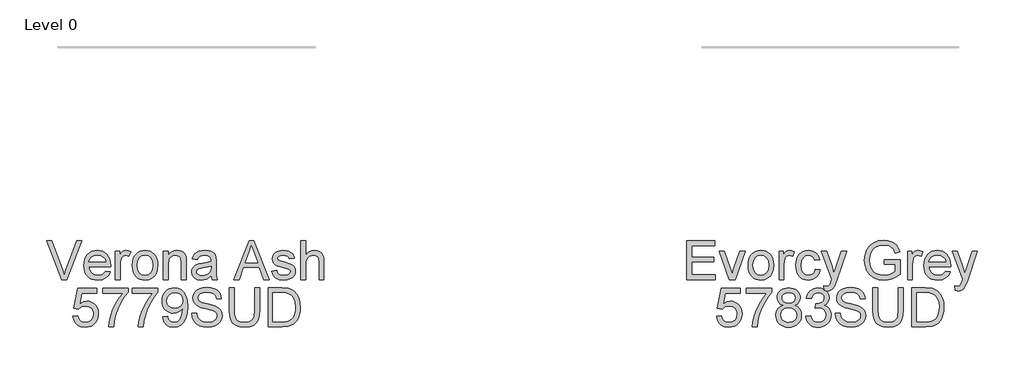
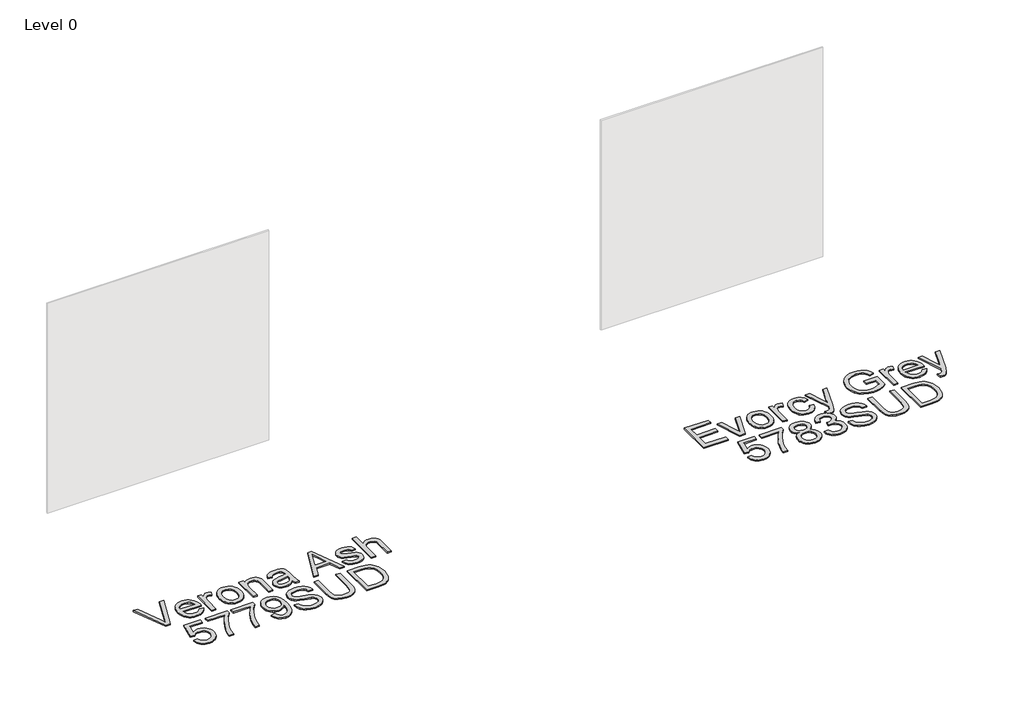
# One storey, part 9 of 12: 2 proxies.
"""IFC4 building model written with IfcOpenShell, lengths in millimetres."""

from ifc_helpers import new_model, si_unit, origin, origin_with_axes, place, context, project, spatial, polyline, outline, extrude, element, save

model = new_model("IFC4")

# Units and contexts
model_context = context("Model", 3, world=origin())
ifc_project = project(units=[si_unit("LENGTHUNIT", "METRE", prefix="MILLI")], contexts=[model_context])

# Site, building, storey
site = spatial("IfcSite", under=ifc_project)
building = spatial("IfcBuilding", under=site)
storey = spatial("IfcBuildingStorey", under=building, Name="Level 0", Elevation=0.0)

# Proxies
placement = place(None, origin())
element("IfcBuildingElementProxy", 1, Name="300mm Arial", ObjectType="300mm Arial", at=placement, inside=storey, context=model_context, shape_type="SweptSolid", body=[
    extrude(outline(polyline([(9435.6895679, -12002.860494), (9435.6895679, -11701.4915635), (9652.2984867, -11701.4915635), (9652.2984867, -11739.1626798), (9473.3606842, -11739.1626798), (9473.3606842, -11828.6315811), (9642.8807076, -11828.6315811), (9642.8807076, -11866.3026974), (9473.3606842, -11866.3026974), (9473.3606842, -11965.1893777), (9657.0073762, -11965.1893777), (9657.0073762, -12002.860494), (9435.6895679, -12002.860494)])), origin_with_axes(), (0.0, 0.0, 1.0), 10.0),
    extrude(outline(polyline([(9763.1045436, -12002.860494), (9685.2607134, -11781.5426857), (9725.1391217, -11781.5426857), (9772.3015935, -11914.1273567), (9786.5018385, -11958.7146546), (9800.4077779, -11916.6289543), (9847.8645553, -11781.5426857), (9887.7429636, -11781.5426857), (9810.8556266, -12002.860494), (9763.1045436, -12002.860494)])), origin_with_axes(), (0.0, 0.0, 1.0), 10.0),
    extrude(outline(polyline([(9911.2874113, -11892.2015898), (9913.3245578, -11863.5389839), (9919.4359975, -11838.8403064), (9929.6217302, -11818.1055575), (9943.881756, -11801.334737), (9958.2383509, -11790.6155754), (9974.0848678, -11782.9590314), (9991.4213069, -11778.3651049), (10010.247668, -11776.8337961), (10031.0307014, -11778.698498), (10049.8225736, -11784.2926036), (10066.6232845, -11793.6161129), (10081.432834, -11806.669026), (10093.5200568, -11823.0098843), (10102.1537874, -11842.1972296), (10107.3340258, -11864.2310619), (10109.0607719, -11889.1113811), (10106.0073513, -11927.1687735), (10096.8470896, -11956.1394806), (10081.8467013, -11977.8353213), (10061.2729007, -11994.0681143), (10036.8363392, -12004.1940662), (10010.247668, -12007.5693835), (9989.1611318, -12005.7115794), (9970.1945157, -12000.1381672), (9953.3478196, -11990.8491468), (9938.6210435, -11977.8445183), (9926.6625794, -11961.3450108), (9918.1208193, -11941.5713536), (9912.9957633, -11918.5235466), (9911.2874113, -11892.2015898)]), holes=[polyline([(9948.9585276, -11892.1280134), (9953.3179292, -11926.2214773), (9966.3961341, -11950.5108861), (9986.0778209, -11965.0514219), (10010.247668, -11969.8982672), (10034.3071504, -11965.0238308), (10053.952049, -11950.4005215), (10067.0302539, -11925.789216), (10071.3896556, -11890.950791), (10067.0026628, -11857.8506085), (10053.8416844, -11833.8922936), (10034.1691947, -11819.3517577), (10010.247668, -11814.5049125), (9986.0778209, -11819.3333636), (9966.3961341, -11833.8187172), (9953.3179292, -11858.0529436), (9948.9585276, -11892.1280134)])]), origin_with_axes(), (0.0, 0.0, 1.0), 10.0),
    extrude(outline(polyline([(10151.4407777, -12002.860494), (10151.4407777, -11781.5426857), (10184.4030045, -11781.5426857), (10184.4030045, -11814.2841833), (10196.5798985, -11795.3014723), (10207.8002994, -11784.1178596), (10219.0574884, -11778.654812), (10231.3447471, -11776.8337961), (10250.1067288, -11779.7400639), (10269.1630162, -11788.4588672), (10256.5814519, -11822.2304343), (10243.3377001, -11816.4362929), (10230.0939483, -11814.5049125), (10218.8459563, -11816.3627165), (10208.7935808, -11821.9361288), (10200.6725857, -11830.8020848), (10195.2187351, -11842.5375205), (10190.6386043, -11863.5803706), (10189.111894, -11886.5362071), (10189.111894, -12002.860494), (10151.4407777, -12002.860494)])), origin_with_axes(), (0.0, 0.0, 1.0), 10.0),
    extrude(outline(polyline([(10433.97415, -11922.8093718), (10471.6452663, -11927.5182614), (10461.1422353, -11961.0231141), (10441.4053663, -11986.3425924), (10414.2924633, -12002.2626857), (10381.6613303, -12007.5693835), (10360.5334075, -12005.7184772), (10341.589784, -12000.1657584), (10324.8304598, -11990.9112269), (10310.255435, -11977.9548829), (10298.4579193, -11961.5404481), (10290.0311223, -11941.9116444), (10284.9750442, -11919.0684718), (10283.2896848, -11893.0109302), (10286.1683614, -11859.4876834), (10294.8043912, -11830.4342028), (10309.33573, -11806.9725286), (10329.9003336, -11790.2247008), (10354.502442, -11780.1815223), (10381.1462955, -11776.8337961), (10412.9772851, -11781.4323211), (10438.4255221, -11795.2278959), (10456.6816662, -11817.4847566), (10466.9363768, -11847.4671392), (10429.2652605, -11852.1760288), (10422.4318524, -11835.7409006), (10411.7908657, -11823.9594797), (10397.9309115, -11816.8685543), (10381.4406011, -11814.5049125), (10357.0960101, -11819.1586197), (10337.7730083, -11833.1197414), (10325.1638529, -11857.1424357), (10320.9608011, -11891.9808606), (10325.0718824, -11927.2883351), (10337.4051263, -11951.3938029), (10356.3786402, -11965.2721511), (10380.4105315, -11969.8982672), (10399.9174743, -11967.0103936), (10415.911144, -11958.3467726), (10427.5454121, -11943.6866751), (10433.97415, -11922.8093718)])), origin_with_axes(), (0.0, 0.0, 1.0), 10.0),
    extrude(outline(polyline([(10504.6074931, -12087.6205057), (10499.8986035, -12051.3473409), (10519.0284673, -12054.6582789), (10536.9075323, -12050.5012124), (10547.8704157, -12038.9129295), (10558.1711116, -12011.1746271), (10561.1141675, -12002.0511536), (10481.0630454, -11781.5426857), (10520.7943009, -11781.5426857), (10563.2478831, -11904.4152721), (10578.0367393, -11953.5643066), (10592.8255955, -11910.1542312), (10636.4564002, -11781.5426857), (10675.89335, -11781.5426857), (10598.8588602, -12008.1579947), (10578.8460797, -12057.3070293), (10568.6005661, -12072.9971964), (10556.9938892, -12083.8681093), (10543.5110141, -12090.2140737), (10527.636906, -12092.3293952), (10504.6074931, -12087.6205057)])), origin_with_axes(), (0.0, 0.0, 1.0), 10.0),
    extrude(outline(polyline([(10970.7875574, -11885.1382555), (10970.7875574, -11847.4671392), (11093.2186854, -11847.4671392), (11093.2186854, -11960.1126061), (11063.466229, -11980.8059684), (11032.7756736, -11995.6500069), (11001.2205954, -12004.5895394), (10968.874571, -12007.5693835), (10926.6141268, -12002.8329028), (10888.4187786, -11988.6234608), (10856.6889566, -11965.437698), (10833.8250906, -11933.7722553), (10820.0019246, -11895.7884393), (10815.3942026, -11853.6475567), (10819.9835305, -11811.2031715), (10833.7515142, -11771.7202364), (10856.1279365, -11738.6016598), (10886.5425805, -11715.2503502), (10923.5882974, -11701.399593), (10965.8579386, -11696.782674), (10996.8887849, -11699.4590155), (11024.7926343, -11707.4880401), (11048.2910967, -11720.2903335), (11066.1057823, -11737.2864817), (11079.2851548, -11759.295022), (11088.8776778, -11787.134492), (11054.1496175, -11796.9201531), (11046.3965044, -11777.0637224), (11036.9695283, -11762.0817281), (11024.4983287, -11750.7877509), (11007.6125451, -11741.9953712), (10987.4802029, -11736.3391855), (10965.2693274, -11734.4537903), (10939.2692674, -11736.4863383), (10917.0399979, -11742.5839824), (10898.6642922, -11751.9833674), (10884.2249239, -11763.9211381), (10864.8375428, -11792.9470275), (10856.0083749, -11821.3843058), (10853.0653189, -11852.1024524), (10856.6061831, -11888.1272967), (10867.2287757, -11917.7693885), (10884.6112, -11940.8171955), (10908.4315592, -11957.0591856), (10936.3078174, -11966.6884968), (10965.8579386, -11969.8982672), (10991.9499691, -11967.4794431), (11017.3982062, -11960.2229707), (11039.498717, -11950.2257775), (11055.5475691, -11939.5847908), (11055.5475691, -11885.1382555), (10970.7875574, -11885.1382555)])), origin_with_axes(), (0.0, 0.0, 1.0), 10.0),
    extrude(outline(polyline([(11149.7253598, -12002.860494), (11149.7253598, -11781.5426857), (11182.6875866, -11781.5426857), (11182.6875866, -11814.2841833), (11194.8644806, -11795.3014723), (11206.0848815, -11784.1178596), (11217.3420705, -11778.654812), (11229.6293292, -11776.8337961), (11248.3913109, -11779.7400639), (11267.4475983, -11788.4588672), (11254.866034, -11822.2304343), (11241.6222822, -11816.4362929), (11228.3785304, -11814.5049125), (11217.1305384, -11816.3627165), (11207.0781629, -11821.9361288), (11198.9571678, -11830.8020848), (11193.5033172, -11842.5375205), (11188.9231864, -11863.5803706), (11187.3964761, -11886.5362071), (11187.3964761, -12002.860494), (11149.7253598, -12002.860494)])), origin_with_axes(), (0.0, 0.0, 1.0), 10.0),
    extrude(outline(polyline([(11445.9439423, -11936.9360404), (11482.8792947, -11941.64493), (11469.5711635, -11969.4752029), (11448.3351753, -11990.2789297), (11419.6495767, -12003.2467701), (11383.9926143, -12007.5693835), (11360.6183121, -12005.7046817), (11339.7915926, -12000.1105761), (11321.512456, -11990.7870668), (11305.7809022, -11977.7341537), (11293.1303601, -11961.3151204), (11284.0942586, -11941.8932503), (11278.6725977, -11919.4685435), (11276.8653774, -11894.0409998), (11278.6909918, -11867.7512327), (11284.167835, -11844.5792656), (11293.295907, -11824.5250983), (11306.0752078, -11807.5887309), (11321.7653749, -11794.133447), (11339.6260457, -11784.5225298), (11359.6572204, -11778.7559796), (11381.8588988, -11776.8337961), (11403.3455066, -11778.751381), (11422.7765737, -11784.5041357), (11440.1521002, -11794.0920602), (11455.472086, -11807.5151545), (11467.9777746, -11824.4147337), (11476.9104093, -11844.4321128), (11482.2699901, -11867.5672917), (11484.056517, -11893.8202706), (11483.8357878, -11903.9738137), (11314.5364937, -11903.9738137), (11321.057202, -11932.1719686), (11336.2047432, -11952.902119), (11358.0661307, -11965.6492302), (11384.7283783, -11969.8982672), (11404.7779471, -11967.9300985), (11421.6637307, -11962.0255925), (11435.3857291, -11951.8168672), (11445.9439423, -11936.9360404)]), holes=[polyline([(11314.5364937, -11866.3026974), (11446.3854007, -11866.3026974), (11441.2902351, -11846.4002814), (11431.3022389, -11832.1632482), (11409.3396838, -11818.9194964), (11381.711746, -11814.5049125), (11356.3186913, -11818.0273826), (11335.3218264, -11828.5947929), (11320.7261082, -11845.0667092), (11314.5364937, -11866.3026974)])]), origin_with_axes(), (0.0, 0.0, 1.0), 10.0),
    extrude(outline(polyline([(11521.7276333, -12087.6205057), (11517.0187438, -12051.3473409), (11536.1486076, -12054.6582789), (11554.0276725, -12050.5012124), (11564.990556, -12038.9129295), (11575.2912518, -12011.1746271), (11578.2343078, -12002.0511536), (11498.1831857, -11781.5426857), (11537.9144411, -11781.5426857), (11580.3680234, -11904.4152721), (11595.1568796, -11953.5643066), (11609.9457358, -11910.1542312), (11653.5765404, -11781.5426857), (11693.0134903, -11781.5426857), (11615.9790005, -12008.1579947), (11595.96622, -12057.3070293), (11585.7207064, -12072.9971964), (11574.1140295, -12083.8681093), (11560.6311543, -12090.2140737), (11544.7570462, -12092.3293952), (11521.7276333, -12087.6205057)])), origin_with_axes(), (0.0, 0.0, 1.0), 10.0),
    extrude(outline(polyline([(9666.4251553, -12288.7338254), (9704.0962716, -12284.0249358), (9711.0124531, -12306.6404815), (9723.0789825, -12322.8364863), (9740.2406776, -12332.5761621), (9762.442356, -12335.8227207), (9789.4448945, -12331.3069693), (9809.6784042, -12317.7597148), (9822.3151507, -12296.7444558), (9826.5273996, -12269.8246908), (9822.5818652, -12244.4776213), (9810.745262, -12225.0902402), (9790.9256195, -12212.7845875), (9763.0309672, -12208.6827032), (9744.7564291, -12210.3197781), (9729.9583758, -12215.2310027), (9708.8051611, -12232.2271509), (9671.1340448, -12227.5182614), (9704.0962716, -12072.1249066), (9850.0718473, -12072.1249066), (9850.0718473, -12109.7960229), (9734.5569008, -12109.7960229), (9718.4436694, -12192.790201), (9745.3542373, -12176.4562404), (9773.5523923, -12171.0115869), (9791.8982075, -12172.6992456), (9808.7495022, -12177.7622215), (9824.1062762, -12186.2005148), (9837.9685296, -12198.0141254), (9849.4441486, -12212.4810848), (9857.6410193, -12228.8794248), (9862.5591417, -12247.2091452), (9864.1985159, -12267.470246), (9858.2940099, -12305.1413624), (9850.9133773, -12321.9351754), (9840.5804918, -12337.3678251), (9824.9271129, -12353.1729553), (9806.6617718, -12364.4623341), (9785.7844686, -12371.2359613), (9762.2952032, -12373.4938371), (9725.2954715, -12367.6904986), (9709.6168008, -12360.4363255), (9695.8189267, -12350.2804832), (9684.3387092, -12337.7288093), (9675.6130081, -12323.2871418), (9666.4251553, -12288.7338254)])), origin_with_axes(), (0.0, 0.0, 1.0), 10.0),
    extrude(outline(polyline([(9897.1607426, -12109.7960229), (9897.1607426, -12072.1249066), (10094.9341033, -12072.1249066), (10094.9341033, -12102.5855358), (10066.7451454, -12138.2608923), (10038.832099, -12183.6299393), (10014.2115965, -12234.5540045), (9995.9002701, -12286.8944154), (9986.9239495, -12326.0554538), (9981.9207543, -12368.7849475), (9944.249638, -12368.7849475), (9948.3239311, -12329.9550029), (9959.2224352, -12283.8042066), (9976.6508448, -12234.8850983), (10000.3148541, -12187.7502177), (10027.9427919, -12145.1402856), (10057.2629869, -12109.7960229), (9897.1607426, -12109.7960229)])), origin_with_axes(), (0.0, 0.0, 1.0), 10.0),
    extrude(outline(polyline([(10182.7843237, -12202.7965913), (10162.6151933, -12192.8637774), (10148.4609335, -12179.3992964), (10140.1008152, -12162.6790597), (10137.3141091, -12142.9789789), (10138.8316223, -12127.6153071), (10143.384162, -12113.5300252), (10150.9717282, -12100.7231332), (10161.5943208, -12089.1946312), (10174.7415036, -12079.6664875), (10189.9028403, -12072.8606706), (10226.2679755, -12067.4160171), (10262.8538399, -12072.9894293), (10278.1807236, -12079.9561946), (10291.5302415, -12089.709666), (10302.3459721, -12101.4634957), (10310.071494, -12114.4313361), (10314.7068072, -12128.613187), (10316.2519115, -12144.0090485), (10313.5019936, -12163.0745329), (10305.2522399, -12179.509661), (10291.4106798, -12192.8913686), (10271.8853429, -12202.7965913), (10295.0711057, -12214.7435591), (10311.9476922, -12232.3375155), (10322.239191, -12254.732332), (10325.6696906, -12281.0818799), (10323.9682364, -12299.8714528), (10318.8638737, -12317.0975272), (10310.3566026, -12332.7601031), (10298.446423, -12346.8591806), (10283.7587343, -12358.5118428), (10266.918936, -12366.8351729), (10247.927028, -12371.829171), (10226.7830103, -12373.4938371), (10205.6389926, -12371.8222732), (10186.6470846, -12366.8075818), (10169.8072863, -12358.4497627), (10155.1195977, -12346.748816), (10143.2094181, -12332.5508703), (10134.7021469, -12316.7020541), (10129.5977842, -12299.2023674), (10127.89633, -12280.0518103), (10131.4647854, -12252.6813898), (10142.1701514, -12230.1670117), (10159.4606052, -12213.2812282), (10182.7843237, -12202.7965913)]), holes=[polyline([(10174.9852254, -12144.0826249), (10178.3237545, -12160.52695), (10188.3393418, -12173.6603373), (10204.7376818, -12182.268776), (10227.2244687, -12185.1382555), (10249.1870238, -12182.2871701), (10265.3370434, -12173.7339137), (10275.2698573, -12161.0419848), (10278.5807952, -12145.774882), (10275.1594927, -12129.9283651), (10264.895585, -12116.822569), (10248.5248362, -12108.0209923), (10226.7830103, -12105.0871334), (10204.9032287, -12107.9566129), (10188.560071, -12116.5650516), (10178.3789368, -12129.1834041), (10174.9852254, -12144.0826249)]), polyline([(10165.5674463, -12278.7274351), (10171.8582284, -12307.0911369), (10180.5678347, -12319.2588339), (10194.1150892, -12328.317928), (10210.3386851, -12333.9465226), (10227.0773159, -12335.8227207), (10252.718691, -12331.8771864), (10271.9589193, -12320.0405832), (10283.9886606, -12302.1155329), (10287.9985743, -12279.9046575), (10283.8599019, -12257.316703), (10271.4438845, -12238.9961796), (10251.7621978, -12226.8560738), (10225.8265171, -12222.8093718), (10200.543827, -12226.8008915), (10181.4967367, -12238.7754504), (10169.5497689, -12256.7464859), (10165.5674463, -12278.7274351)])]), origin_with_axes(), (0.0, 0.0, 1.0), 10.0),
    extrude(outline(polyline([(10358.6319174, -12288.7338254), (10396.3030337, -12284.0249358), (10404.7367284, -12307.6981422), (10417.0883664, -12323.6826149), (10433.964953, -12332.7876943), (10455.9734933, -12335.8227207), (10481.7988094, -12331.6472601), (10501.7380135, -12319.1208782), (10514.4851246, -12300.4324728), (10518.7341617, -12277.7709419), (10514.5219128, -12256.2590422), (10501.8851663, -12238.8122386), (10482.7553026, -12227.2515469), (10459.0637021, -12223.397983), (10432.6497748, -12227.5182614), (10436.8436296, -12189.8471451), (10442.8768943, -12190.2886035), (10465.4464547, -12187.5846708), (10485.6247821, -12179.4728728), (10499.8618153, -12165.7508744), (10504.6074931, -12146.2163404), (10501.1677964, -12129.9467592), (10490.8487065, -12116.7489926), (10475.1033571, -12108.0025982), (10455.3848821, -12105.0871334), (10435.629619, -12108.0301893), (10419.4795994, -12116.8593572), (10407.6889814, -12131.574637), (10401.0119232, -12152.1760288), (10363.3408069, -12147.4671392), (10374.4324491, -12113.6403898), (10394.1693181, -12088.3852908), (10421.1718566, -12072.6583355), (10454.0605069, -12067.4160171), (10477.7429104, -12070.0003881), (10499.4939333, -12077.7535011), (10517.8328508, -12089.9855775), (10531.2789377, -12106.0068384), (10539.5286915, -12124.4653175), (10542.2786094, -12144.0090485), (10539.6666472, -12162.2192072), (10531.8307607, -12178.7371088), (10518.8813145, -12192.8085951), (10500.9286731, -12203.6795081), (10524.509909, -12213.2076518), (10541.9843038, -12229.4312477), (10552.8000344, -12251.4673793), (10556.405278, -12278.4331295), (10554.6026562, -12297.5445992), (10549.1947909, -12315.1477526), (10540.181682, -12331.2425899), (10527.5633296, -12345.829111), (10512.1904607, -12357.9324287), (10494.9138025, -12366.5776555), (10475.733355, -12371.7647917), (10454.6491181, -12373.4938371), (10435.5928308, -12372.0177105), (10418.2288006, -12367.589331), (10402.5570276, -12360.2086985), (10388.5775118, -12349.875813), (10376.8558717, -12337.1976797), (10367.957726, -12322.781304), (10361.8830745, -12306.6266859), (10358.6319174, -12288.7338254)])), origin_with_axes(), (0.0, 0.0, 1.0), 10.0),
    extrude(outline(polyline([(10589.3675048, -12265.1893777), (10627.0386211, -12265.1893777), (10631.3612345, -12286.0942721), (10639.1787269, -12302.8972822), (10651.3740151, -12316.2330045), (10668.8300157, -12326.7360355), (10690.1671714, -12333.5510494), (10714.0059247, -12335.8227207), (10734.9935926, -12334.1028724), (10753.3692982, -12328.9433274), (10768.259322, -12320.7763471), (10778.7899441, -12310.0341929), (10785.0531351, -12297.700949), (10787.1408654, -12284.7606998), (10785.5773669, -12272.1515444), (10780.8868715, -12261.2530403), (10771.3587278, -12251.9548229), (10755.2822846, -12244.1465276), (10700.4310791, -12229.7623415), (10664.4246288, -12220.2433949), (10641.3860189, -12211.1843008), (10622.6332342, -12198.510766), (10609.3434971, -12183.1516928), (10601.4248372, -12165.4381747), (10598.7852838, -12145.7013056), (10602.0502366, -12123.637583), (10611.8450947, -12103.0637824), (10627.9123408, -12085.6261758), (10649.9944576, -12072.9710352), (10676.5003553, -12065.2731044), (10705.8389444, -12062.7071275), (10737.6239488, -12065.3926661), (10765.4358277, -12073.4492818), (10788.2812996, -12086.7114277), (10805.1670831, -12105.013557), (10815.8540551, -12127.2152354), (10820.1030921, -12152.1760288), (10782.4319758, -12152.1760288), (10775.5157943, -12129.6984389), (10761.0948201, -12113.4748429), (10738.5620479, -12103.6523936), (10707.3104724, -12100.3782438), (10675.3231329, -12103.6156054), (10653.3789719, -12113.3276901), (10640.6870431, -12127.6199056), (10636.4564002, -12144.5976597), (10639.4546384, -12159.0738162), (10648.4493532, -12170.7172813), (10669.7129325, -12181.1283418), (10709.9592228, -12191.7601314), (10751.4931, -12201.8584922), (10776.6194403, -12210.669266), (10798.0945518, -12224.3360821), (10813.076546, -12241.2034716), (10821.8781228, -12261.0874934), (10824.8119817, -12283.8042066), (10821.4366644, -12307.0267576), (10811.3107125, -12328.869751), (10794.8479932, -12347.668521), (10772.4623738, -12361.7584014), (10745.5426088, -12370.5599781), (10715.4774527, -12373.4938371), (10678.5696915, -12370.3300519), (10648.1918358, -12360.8386964), (10623.9943976, -12344.9829824), (10605.627889, -12322.7261217), (10593.837271, -12295.6132187), (10589.3675048, -12265.1893777)])), origin_with_axes(), (0.0, 0.0, 1.0), 10.0),
    extrude(outline(polyline([(11079.0920167, -12067.4160171), (11116.7631331, -12067.4160171), (11116.7631331, -12241.277048), (11114.2063532, -12281.9923878), (11106.5360136, -12313.3451308), (11092.2070099, -12337.533372), (11069.6742377, -12356.7552063), (11038.8825147, -12369.3091794), (10999.7766586, -12373.4938371), (10961.5261281, -12369.8518053), (10930.9459373, -12358.92571), (10908.026889, -12341.0926303), (10892.7597862, -12316.7296452), (10884.1789387, -12284.052527), (10881.3186561, -12241.277048), (10881.3186561, -12067.4160171), (10918.9897724, -12067.4160171), (10918.9897724, -12239.9526728), (10920.8475765, -12273.8070134), (10926.4209887, -12297.3790523), (10936.5193495, -12313.7038158), (10951.9519992, -12325.8163305), (10972.0751444, -12333.3211232), (10996.2449914, -12335.8227207), (11034.5599012, -12330.8747079), (11048.9027005, -12324.6896919), (11060.0357294, -12316.0306694), (11068.3728551, -12303.8537754), (11074.3279449, -12287.1151446), (11079.0920167, -12239.9526728), (11079.0920167, -12067.4160171)])), origin_with_axes(), (0.0, 0.0, 1.0), 10.0),
    extrude(outline(polyline([(11182.6875866, -12368.7849475), (11182.6875866, -12067.4160171), (11286.6510384, -12067.4160171), (11340.4353861, -12071.7570246), (11364.4580804, -12080.12634), (11384.7283783, -12093.3149095), (11405.5688934, -12116.270746), (11420.4129319, -12144.8183889), (11429.2972821, -12178.406015), (11432.2587321, -12216.4818015), (11430.2537752, -12248.8278259), (11424.2389046, -12277.2926953), (11415.0786429, -12301.5269217), (11403.6375129, -12321.1810173), (11390.4673375, -12336.6964405), (11376.1199397, -12348.5146496), (11359.6480233, -12357.2794381), (11340.1042923, -12363.6345996), (11291.6542336, -12368.7849475), (11182.6875866, -12368.7849475)]), holes=[polyline([(11220.3587029, -12331.1138312), (11287.0189204, -12331.1138312), (11314.591676, -12329.7526678), (11335.5057674, -12325.6691777), (11351.287905, -12319.1024841), (11363.464799, -12310.2917103), (11376.552201, -12293.9853408), (11386.3838473, -12272.8781114), (11392.5366737, -12246.8780514), (11394.5876158, -12215.8931903), (11390.568505, -12174.8375597), (11378.5111726, -12144.5240833), (11360.696487, -12123.7019623), (11339.4053165, -12111.1203981), (11317.737067, -12106.5954496), (11285.9888508, -12105.0871334), (11220.3587029, -12105.0871334), (11220.3587029, -12331.1138312)])]), origin_with_axes(), (0.0, 0.0, 1.0), 10.0),
])
element("IfcBuildingElementProxy", 2, Name="300mm Arial", ObjectType="300mm Arial", at=placement, inside=storey, context=model_context, shape_type="SweptSolid", body=[
    extrude(outline(polyline([(4581.2236852, -12002.860494), (4461.2941548, -11701.4915635), (4501.6140214, -11701.4915635), (4581.8858728, -11918.6155171), (4598.146257, -11967.5438224), (4614.185912, -11918.6155171), (4694.6784925, -11701.4915635), (4734.9983592, -11701.4915635), (4620.1456003, -12002.860494), (4581.2236852, -12002.860494)])), origin_with_axes(), (0.0, 0.0, 1.0), 10.0),
    extrude(outline(polyline([(4920.2637319, -11936.9360404), (4957.1990843, -11941.64493), (4943.8909531, -11969.4752029), (4922.6549649, -11990.2789297), (4893.9693663, -12003.2467701), (4858.312404, -12007.5693835), (4834.9381017, -12005.7046817), (4814.1113822, -12000.1105761), (4795.8322456, -11990.7870668), (4780.1006918, -11977.7341537), (4767.4501497, -11961.3151204), (4758.4140482, -11941.8932503), (4752.9923873, -11919.4685435), (4751.185167, -11894.0409998), (4753.0107814, -11867.7512327), (4758.4876246, -11844.5792656), (4767.6156966, -11824.5250983), (4780.3949974, -11807.5887309), (4796.0851645, -11794.133447), (4813.9458353, -11784.5225298), (4833.97701, -11778.7559796), (4856.1786884, -11776.8337961), (4877.6652962, -11778.751381), (4897.0963633, -11784.5041357), (4914.4718898, -11794.0920602), (4929.7918756, -11807.5151545), (4942.2975642, -11824.4147337), (4951.2301989, -11844.4321128), (4956.5897797, -11867.5672917), (4958.3763066, -11893.8202706), (4958.1555774, -11903.9738137), (4788.8562833, -11903.9738137), (4795.3769916, -11932.1719686), (4810.5245328, -11952.902119), (4832.3859203, -11965.6492302), (4859.0481679, -11969.8982672), (4879.0977367, -11967.9300985), (4895.9835203, -11962.0255925), (4909.7055187, -11951.8168672), (4920.2637319, -11936.9360404)]), holes=[polyline([(4788.8562833, -11866.3026974), (4920.7051903, -11866.3026974), (4915.6100247, -11846.4002814), (4905.6220285, -11832.1632482), (4883.6594734, -11818.9194964), (4856.0315356, -11814.5049125), (4830.6384809, -11818.0273826), (4809.641616, -11828.5947929), (4795.0458978, -11845.0667092), (4788.8562833, -11866.3026974)])]), origin_with_axes(), (0.0, 0.0, 1.0), 10.0),
    extrude(outline(polyline([(4996.0474229, -12002.860494), (4996.0474229, -11781.5426857), (5029.0096497, -11781.5426857), (5029.0096497, -11814.2841833), (5041.1865438, -11795.3014723), (5052.4069446, -11784.1178596), (5063.6641337, -11778.654812), (5075.9513923, -11776.8337961), (5094.7133741, -11779.7400639), (5113.7696614, -11788.4588672), (5101.1880972, -11822.2304343), (5087.9443453, -11816.4362929), (5074.7005935, -11814.5049125), (5063.4526015, -11816.3627165), (5053.400226, -11821.9361288), (5045.279231, -11830.8020848), (5039.8253804, -11842.5375205), (5035.2452495, -11863.5803706), (5033.7185393, -11886.5362071), (5033.7185393, -12002.860494), (4996.0474229, -12002.860494)])), origin_with_axes(), (0.0, 0.0, 1.0), 10.0),
    extrude(outline(polyline([(5127.89633, -11892.2015898), (5129.9334766, -11863.5389839), (5136.0449162, -11838.8403064), (5146.230649, -11818.1055575), (5160.4906748, -11801.334737), (5174.8472697, -11790.6155754), (5190.6937866, -11782.9590314), (5208.0302256, -11778.3651049), (5226.8565867, -11776.8337961), (5247.6396202, -11778.698498), (5266.4314924, -11784.2926036), (5283.2322032, -11793.6161129), (5298.0417528, -11806.669026), (5310.1289756, -11823.0098843), (5318.7627062, -11842.1972296), (5323.9429445, -11864.2310619), (5325.6696906, -11889.1113811), (5322.6162701, -11927.1687735), (5313.4560084, -11956.1394806), (5298.45562, -11977.8353213), (5277.8818195, -11994.0681143), (5253.4452579, -12004.1940662), (5226.8565867, -12007.5693835), (5205.7700506, -12005.7115794), (5186.8034345, -12000.1381672), (5169.9567384, -11990.8491468), (5155.2299623, -11977.8445183), (5143.2714982, -11961.3450108), (5134.7297381, -11941.5713536), (5129.604682, -11918.5235466), (5127.89633, -11892.2015898)]), holes=[polyline([(5165.5674463, -11892.1280134), (5169.926848, -11926.2214773), (5183.0050529, -11950.5108861), (5202.6867396, -11965.0514219), (5226.8565867, -11969.8982672), (5250.9160692, -11965.0238308), (5270.5609677, -11950.4005215), (5283.6391727, -11925.789216), (5287.9985743, -11890.950791), (5283.6115815, -11857.8506085), (5270.4506031, -11833.8922936), (5250.7781135, -11819.3517577), (5226.8565867, -11814.5049125), (5202.6867396, -11819.3333636), (5183.0050529, -11833.8187172), (5169.926848, -11858.0529436), (5165.5674463, -11892.1280134)])]), origin_with_axes(), (0.0, 0.0, 1.0), 10.0),
    extrude(outline(polyline([(5368.0496965, -12002.860494), (5368.0496965, -11781.5426857), (5405.7208128, -11781.5426857), (5405.7208128, -11812.4447733), (5418.8082148, -11796.8649708), (5434.525973, -11785.7365404), (5452.8740875, -11779.0594822), (5473.8525583, -11776.8337961), (5492.421402, -11778.6272209), (5509.4267472, -11784.0074951), (5523.6085981, -11792.303234), (5533.7069589, -11802.8430532), (5545.0009361, -11830.5445674), (5546.9874989, -11866.964885), (5546.9874989, -12002.860494), (5509.3163826, -12002.860494), (5509.3163826, -11872.0416565), (5504.9753751, -11838.7115477), (5498.9697015, -11828.7879309), (5489.6346959, -11821.0900002), (5477.669334, -11816.1511844), (5463.7725916, -11814.5049125), (5441.708869, -11818.2021265), (5422.900902, -11829.2937687), (5415.3846129, -11838.3482643), (5410.0158351, -11850.7228949), (5405.7208128, -11885.4325611), (5405.7208128, -12002.860494), (5368.0496965, -12002.860494)])), origin_with_axes(), (0.0, 0.0, 1.0), 10.0),
    extrude(outline(polyline([(5740.05197, -11974.6071568), (5722.0533434, -11990.0398064), (5703.5212879, -12000.1381672), (5684.0327392, -12005.7115794), (5663.164633, -12007.5693835), (5631.6831313, -12003.0996173), (5608.4605803, -11989.6903186), (5594.1407737, -11969.3280501), (5589.3675048, -11943.9993748), (5591.1701265, -11928.3827841), (5596.5779919, -11914.2009331), (5604.9197161, -11902.0608273), (5615.5239146, -11892.5694718), (5641.9010537, -11880.2086368), (5674.4953985, -11874.5432541), (5713.0126433, -11868.5835657), (5739.8312408, -11861.5938078), (5740.05197, -11853.2060983), (5737.4584019, -11836.3938912), (5729.6776977, -11825.3942195), (5712.2768794, -11817.2272392), (5688.0334559, -11814.5049125), (5665.5926542, -11816.3167313), (5649.9208812, -11821.7521878), (5639.2339092, -11831.8045633), (5631.7475106, -11847.4671392), (5594.0763943, -11842.7582497), (5600.6154968, -11822.156858), (5610.3735667, -11805.9700502), (5624.261112, -11793.590821), (5643.1886407, -11784.4121652), (5666.3376152, -11778.7283884), (5692.8894982, -11776.8337961), (5718.3561293, -11778.5076592), (5738.5436538, -11783.5292485), (5753.7647714, -11791.0800264), (5764.3321817, -11800.3414556), (5771.3403337, -11811.7917827), (5775.8836763, -11825.9092543), (5777.7230863, -11858.8714811), (5777.7230863, -11905.7396473), (5779.6360727, -11971.1858542), (5787.1408654, -12002.860494), (5749.4697491, -12002.860494), (5740.05197, -11974.6071568)]), holes=[polyline([(5740.05197, -11899.2649241), (5679.2778644, -11910.8164188), (5646.8674606, -11916.9232599), (5632.188969, -11926.8560738), (5627.0386211, -11941.3506244), (5629.8437213, -11952.5526311), (5638.2590219, -11961.7312869), (5652.100582, -11967.8565221), (5671.1844605, -11969.8982672), (5691.4179702, -11967.64499), (5709.2970352, -11960.8851583), (5723.7915858, -11950.9247533), (5733.8715525, -11939.069756), (5738.3413187, -11926.8560738), (5739.8312408, -11909.933502), (5740.05197, -11899.2649241)])]), origin_with_axes(), (0.0, 0.0, 1.0), 10.0),
    extrude(outline(polyline([(5916.8560569, -12002.860494), (6037.1534693, -11701.4915635), (6069.2327793, -11701.4915635), (6189.5301917, -12002.860494), (6149.7253598, -12002.860494), (6115.2180287, -11908.6827032), (5991.0946435, -11908.6827032), (5956.6608888, -12002.860494), (5916.8560569, -12002.860494)]), holes=[polyline([(6004.9270065, -11871.0115869), (6101.4592421, -11871.0115869), (6074.3095508, -11796.9201531), (6053.1931243, -11739.1626798), (6034.4311425, -11790.44543), (6004.9270065, -11871.0115869)])]), origin_with_axes(), (0.0, 0.0, 1.0), 10.0),
    extrude(outline(polyline([(6210.9409238, -11936.9360404), (6248.6120401, -11932.2271509), (6254.5533343, -11948.3403823), (6266.0496467, -11960.1861825), (6283.1745536, -11967.470246), (6306.0016314, -11969.8982672), (6328.5527977, -11967.6725811), (6344.4085117, -11960.9955229), (6353.7895025, -11951.3202265), (6356.9164995, -11940.0998256), (6353.7711084, -11930.4981055), (6344.3349353, -11923.1772538), (6305.560173, -11912.4350996), (6248.8327693, -11894.0042116), (6234.4761745, -11884.7427824), (6224.074311, -11872.4831149), (6217.7559378, -11858.0069584), (6215.6498134, -11842.0960621), (6217.3420705, -11827.5003439), (6222.4188421, -11814.0266659), (6230.4202755, -11802.2084568), (6240.8865182, -11792.5791455), (6264.8356361, -11781.4323211), (6297.2460399, -11776.8337961), (6321.7653749, -11778.6824032), (6343.0841365, -11784.2282242), (6360.2274375, -11792.9286334), (6372.2203905, -11804.2410048), (6380.1666416, -11819.0022698), (6385.1698367, -11838.0493601), (6347.4987204, -11842.7582497), (6342.7438456, -11830.9032524), (6333.3352636, -11821.972917), (6319.1810038, -11816.3719136), (6300.1890958, -11814.5049125), (6278.5576345, -11816.2891401), (6264.1366603, -11821.6418232), (6256.0248623, -11829.3673451), (6253.3209297, -11838.2700893), (6257.80909, -11849.2329728), (6271.8621822, -11857.5471059), (6304.3093742, -11865.5669334), (6359.6020381, -11883.2988455), (6374.2069533, -11891.7785255), (6385.2802013, -11903.3852025), (6392.2607622, -11918.1556646), (6394.5876158, -11936.1267001), (6391.856092, -11954.7047408), (6383.6615206, -11972.1791356), (6370.3166012, -11987.1795239), (6352.1340336, -11998.3355454), (6330.1714785, -12005.260924), (6305.4865966, -12007.5693835), (6267.5027806, -12003.1180114), (6239.7828722, -11989.763895), (6221.2784079, -11967.654187), (6210.9409238, -11936.9360404)])), origin_with_axes(), (0.0, 0.0, 1.0), 10.0),
    extrude(outline(polyline([(6436.9676217, -12002.860494), (6436.9676217, -11701.4915635), (6474.638738, -11701.4915635), (6474.638738, -11812.2976205), (6488.4756995, -11796.7821973), (6504.0141153, -11785.6997522), (6521.2539853, -11779.0502852), (6540.1953095, -11776.8337961), (6562.9488109, -11779.2526203), (6582.5017389, -11786.5090926), (6597.8976004, -11798.0329961), (6608.1799022, -11813.2541137), (6613.9740436, -11834.1682051), (6615.9054241, -11862.7710302), (6615.9054241, -12002.860494), (6578.2343078, -12002.860494), (6578.2343078, -11866.6705794), (6575.2360695, -11843.0893435), (6566.2413548, -11826.9393239), (6551.7468042, -11817.6135153), (6532.2490584, -11814.5049125), (6516.3289651, -11816.6018398), (6501.383759, -11822.8926219), (6489.0045299, -11832.7702535), (6480.7823673, -11845.6277292), (6476.1746453, -11862.7158479), (6474.638738, -11885.2854083), (6474.638738, -12002.860494), (6436.9676217, -12002.860494)])), origin_with_axes(), (0.0, 0.0, 1.0), 10.0),
    extrude(outline(polyline([(4666.4251553, -12288.7338254), (4704.0962716, -12284.0249358), (4711.0124531, -12306.6404815), (4723.0789825, -12322.8364863), (4740.2406776, -12332.5761621), (4762.442356, -12335.8227207), (4789.4448945, -12331.3069693), (4809.6784042, -12317.7597148), (4822.3151507, -12296.7444558), (4826.5273996, -12269.8246908), (4822.5818652, -12244.4776213), (4810.745262, -12225.0902402), (4790.9256195, -12212.7845875), (4763.0309672, -12208.6827032), (4744.7564291, -12210.3197781), (4729.9583758, -12215.2310027), (4708.8051611, -12232.2271509), (4671.1340448, -12227.5182614), (4704.0962716, -12072.1249066), (4850.0718473, -12072.1249066), (4850.0718473, -12109.7960229), (4734.5569008, -12109.7960229), (4718.4436694, -12192.790201), (4745.3542373, -12176.4562404), (4773.5523923, -12171.0115869), (4791.8982075, -12172.6992456), (4808.7495022, -12177.7622215), (4824.1062762, -12186.2005148), (4837.9685296, -12198.0141254), (4849.4441486, -12212.4810848), (4857.6410193, -12228.8794248), (4862.5591417, -12247.2091452), (4864.1985159, -12267.470246), (4858.2940099, -12305.1413624), (4850.9133773, -12321.9351754), (4840.5804918, -12337.3678251), (4824.9271129, -12353.1729553), (4806.6617718, -12364.4623341), (4785.7844686, -12371.2359613), (4762.2952032, -12373.4938371), (4725.2954715, -12367.6904986), (4709.6168008, -12360.4363255), (4695.8189267, -12350.2804832), (4684.3387092, -12337.7288093), (4675.6130081, -12323.2871418), (4666.4251553, -12288.7338254)])), origin_with_axes(), (0.0, 0.0, 1.0), 10.0),
    extrude(outline(polyline([(4897.1607426, -12109.7960229), (4897.1607426, -12072.1249066), (5094.9341033, -12072.1249066), (5094.9341033, -12102.5855358), (5066.7451454, -12138.2608923), (5038.832099, -12183.6299393), (5014.2115965, -12234.5540045), (4995.9002701, -12286.8944154), (4986.9239495, -12326.0554538), (4981.9207543, -12368.7849475), (4944.249638, -12368.7849475), (4948.3239311, -12329.9550029), (4959.2224352, -12283.8042066), (4976.6508448, -12234.8850983), (5000.3148541, -12187.7502177), (5027.9427919, -12145.1402856), (5057.2629869, -12109.7960229), (4897.1607426, -12109.7960229)])), origin_with_axes(), (0.0, 0.0, 1.0), 10.0),
    extrude(outline(polyline([(5127.89633, -12109.7960229), (5127.89633, -12072.1249066), (5325.6696906, -12072.1249066), (5325.6696906, -12102.5855358), (5297.4807327, -12138.2608923), (5269.5676864, -12183.6299393), (5244.9471838, -12234.5540045), (5226.6358575, -12286.8944154), (5217.6595368, -12326.0554538), (5212.6563417, -12368.7849475), (5174.9852254, -12368.7849475), (5179.0595185, -12329.9550029), (5189.9580226, -12283.8042066), (5207.3864321, -12234.8850983), (5231.0504415, -12187.7502177), (5258.6783793, -12145.1402856), (5287.9985743, -12109.7960229), (5127.89633, -12109.7960229)])), origin_with_axes(), (0.0, 0.0, 1.0), 10.0),
    extrude(outline(polyline([(5363.3408069, -12293.4427149), (5401.0119232, -12288.7338254), (5407.4498582, -12310.1169663), (5417.934495, -12324.6758963), (5432.2083164, -12333.0360146), (5450.013805, -12335.8227207), (5465.9890806, -12334.029296), (5480.5112224, -12328.6490218), (5492.5777518, -12320.2705094), (5501.1861905, -12309.4823699), (5513.5102374, -12276.7408723), (5518.9548909, -12233.0364913), (5518.7341617, -12225.6788514), (5505.6835479, -12241.6081418), (5488.6046263, -12254.2264942), (5468.7298015, -12262.4486568), (5447.2914782, -12265.1893777), (5429.3963184, -12263.5155146), (5412.9404969, -12258.4939254), (5397.9240137, -12250.12461), (5384.3468689, -12238.4075684), (5373.0965776, -12223.9544045), (5365.0606553, -12207.3767221), (5360.2391019, -12188.6745212), (5358.6319174, -12167.8478018), (5360.3172768, -12146.326705), (5365.373355, -12127.0129003), (5373.8001519, -12109.9063875), (5385.5976676, -12095.0071667), (5399.9335691, -12082.9360387), (5415.9755234, -12074.3138045), (5433.7235304, -12069.1404639), (5453.1775902, -12067.4160171), (5481.2745775, -12071.3523544), (5506.8515732, -12083.1613665), (5528.2439113, -12102.254442), (5543.7869256, -12128.0429699), (5553.2506899, -12163.6907352), (5556.405278, -12212.3615232), (5553.2598869, -12263.96617), (5543.8237138, -12303.8537754), (5528.1795319, -12333.8269609), (5506.4101149, -12355.6883485), (5479.4535617, -12369.0424649), (5448.2479714, -12373.4938371), (5416.0399027, -12368.2423216), (5390.3433454, -12352.4877751), (5372.3723099, -12327.2234791), (5363.3408069, -12293.4427149)]), holes=[polyline([(5518.7341617, -12166.964885), (5514.6690656, -12141.4338745), (5502.4737775, -12121.788976), (5483.5462489, -12109.262594), (5459.2844313, -12105.0871334), (5434.1213028, -12109.5844908), (5413.9613695, -12123.0765629), (5400.7176176, -12143.7239399), (5396.3030337, -12169.6872117), (5400.4784943, -12192.964945), (5413.0048763, -12211.4418182), (5432.6681689, -12223.4991506), (5458.2543617, -12227.5182614), (5482.3230412, -12223.4991506), (5501.7012253, -12211.4418182), (5514.4759276, -12192.2843633), (5518.7341617, -12166.964885)])]), origin_with_axes(), (0.0, 0.0, 1.0), 10.0),
    extrude(outline(polyline([(5589.3675048, -12265.1893777), (5627.0386211, -12265.1893777), (5631.3612345, -12286.0942721), (5639.1787269, -12302.8972822), (5651.3740151, -12316.2330045), (5668.8300157, -12326.7360355), (5690.1671714, -12333.5510494), (5714.0059247, -12335.8227207), (5734.9935926, -12334.1028724), (5753.3692982, -12328.9433274), (5768.259322, -12320.7763471), (5778.7899441, -12310.0341929), (5785.0531351, -12297.700949), (5787.1408654, -12284.7606998), (5785.5773669, -12272.1515444), (5780.8868715, -12261.2530403), (5771.3587278, -12251.9548229), (5755.2822846, -12244.1465276), (5700.4310791, -12229.7623415), (5664.4246288, -12220.2433949), (5641.3860189, -12211.1843008), (5622.6332342, -12198.510766), (5609.3434971, -12183.1516928), (5601.4248372, -12165.4381747), (5598.7852838, -12145.7013056), (5602.0502366, -12123.637583), (5611.8450947, -12103.0637824), (5627.9123408, -12085.6261758), (5649.9944576, -12072.9710352), (5676.5003553, -12065.2731044), (5705.8389444, -12062.7071275), (5737.6239488, -12065.3926661), (5765.4358277, -12073.4492818), (5788.2812996, -12086.7114277), (5805.1670831, -12105.013557), (5815.8540551, -12127.2152354), (5820.1030921, -12152.1760288), (5782.4319758, -12152.1760288), (5775.5157943, -12129.6984389), (5761.0948201, -12113.4748429), (5738.5620479, -12103.6523936), (5707.3104724, -12100.3782438), (5675.3231329, -12103.6156054), (5653.3789719, -12113.3276901), (5640.6870431, -12127.6199056), (5636.4564002, -12144.5976597), (5639.4546384, -12159.0738162), (5648.4493532, -12170.7172813), (5669.7129325, -12181.1283418), (5709.9592228, -12191.7601314), (5751.4931, -12201.8584922), (5776.6194403, -12210.669266), (5798.0945518, -12224.3360821), (5813.076546, -12241.2034716), (5821.8781228, -12261.0874934), (5824.8119817, -12283.8042066), (5821.4366644, -12307.0267576), (5811.3107125, -12328.869751), (5794.8479932, -12347.668521), (5772.4623738, -12361.7584014), (5745.5426088, -12370.5599781), (5715.4774527, -12373.4938371), (5678.5696915, -12370.3300519), (5648.1918358, -12360.8386964), (5623.9943976, -12344.9829824), (5605.627889, -12322.7261217), (5593.837271, -12295.6132187), (5589.3675048, -12265.1893777)])), origin_with_axes(), (0.0, 0.0, 1.0), 10.0),
    extrude(outline(polyline([(6079.0920167, -12067.4160171), (6116.7631331, -12067.4160171), (6116.7631331, -12241.277048), (6114.2063532, -12281.9923878), (6106.5360136, -12313.3451308), (6092.2070099, -12337.533372), (6069.6742377, -12356.7552063), (6038.8825147, -12369.3091794), (5999.7766586, -12373.4938371), (5961.5261281, -12369.8518053), (5930.9459373, -12358.92571), (5908.026889, -12341.0926303), (5892.7597862, -12316.7296452), (5884.1789387, -12284.052527), (5881.3186561, -12241.277048), (5881.3186561, -12067.4160171), (5918.9897724, -12067.4160171), (5918.9897724, -12239.9526728), (5920.8475765, -12273.8070134), (5926.4209887, -12297.3790523), (5936.5193495, -12313.7038158), (5951.9519992, -12325.8163305), (5972.0751444, -12333.3211232), (5996.2449914, -12335.8227207), (6034.5599012, -12330.8747079), (6048.9027005, -12324.6896919), (6060.0357294, -12316.0306694), (6068.3728551, -12303.8537754), (6074.3279449, -12287.1151446), (6079.0920167, -12239.9526728), (6079.0920167, -12067.4160171)])), origin_with_axes(), (0.0, 0.0, 1.0), 10.0),
    extrude(outline(polyline([(6182.6875866, -12368.7849475), (6182.6875866, -12067.4160171), (6286.6510384, -12067.4160171), (6340.4353861, -12071.7570246), (6364.4580804, -12080.12634), (6384.7283783, -12093.3149095), (6405.5688934, -12116.270746), (6420.4129319, -12144.8183889), (6429.2972821, -12178.406015), (6432.2587321, -12216.4818015), (6430.2537752, -12248.8278259), (6424.2389046, -12277.2926953), (6415.0786429, -12301.5269217), (6403.6375129, -12321.1810173), (6390.4673375, -12336.6964405), (6376.1199397, -12348.5146496), (6359.6480233, -12357.2794381), (6340.1042923, -12363.6345996), (6291.6542336, -12368.7849475), (6182.6875866, -12368.7849475)]), holes=[polyline([(6220.3587029, -12331.1138312), (6287.0189204, -12331.1138312), (6314.591676, -12329.7526678), (6335.5057674, -12325.6691777), (6351.287905, -12319.1024841), (6363.464799, -12310.2917103), (6376.552201, -12293.9853408), (6386.3838473, -12272.8781114), (6392.5366737, -12246.8780514), (6394.5876158, -12215.8931903), (6390.568505, -12174.8375597), (6378.5111726, -12144.5240833), (6360.696487, -12123.7019623), (6339.4053165, -12111.1203981), (6317.737067, -12106.5954496), (6285.9888508, -12105.0871334), (6220.3587029, -12105.0871334), (6220.3587029, -12331.1138312)])]), origin_with_axes(), (0.0, 0.0, 1.0), 10.0),
])

save(model, "model.ifc")
